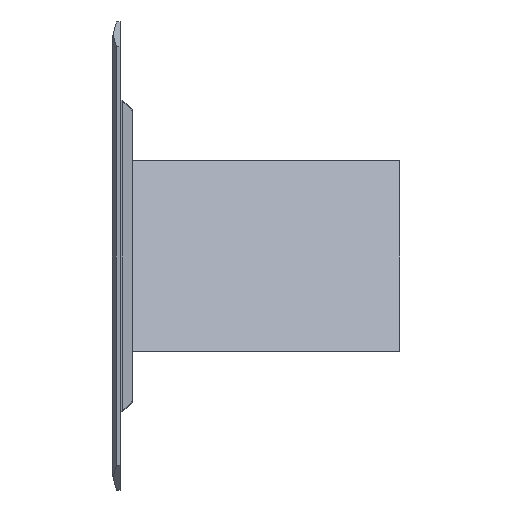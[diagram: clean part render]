
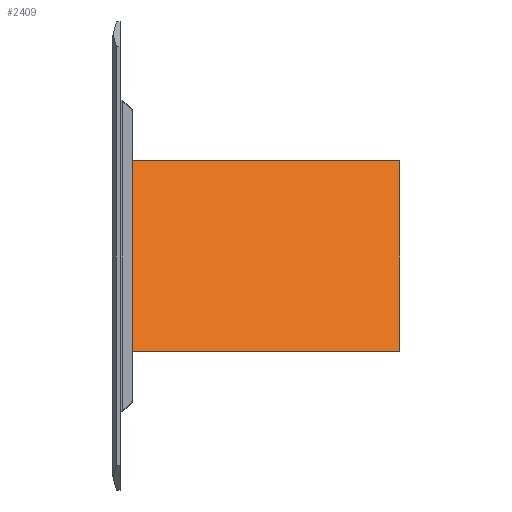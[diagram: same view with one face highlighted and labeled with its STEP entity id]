
A CAD part, left-side view. The second image highlights one B-rep face of the part: STEP entity #2409.
In plain terms, the highlighted planar face has unit normal (-0.866, 0, 0.5) as drawn and (1, 0, 0) by its records, which use the part's own axes.
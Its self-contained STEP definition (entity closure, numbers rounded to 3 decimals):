
#124 = CARTESIAN_POINT ( 'NONE',  ( 52., 342.5, 251.726 ) ) ;
#246 = DIRECTION ( 'NONE',  ( 0., 0., -1. ) ) ;
#323 = EDGE_CURVE ( 'NONE', #1773, #6515, #5387, .T. ) ;
#747 = CARTESIAN_POINT ( 'NONE',  ( 52., -342.5, 251.726 ) ) ;
#847 = CARTESIAN_POINT ( 'NONE',  ( 52., -342.5, -311.77 ) ) ;
#1408 = CARTESIAN_POINT ( 'NONE',  ( 52., 342.5, 251.726 ) ) ;
#1773 = VERTEX_POINT ( 'NONE', #124 ) ;
#1829 = VECTOR ( 'NONE', #246, 1000. ) ;
#2253 = AXIS2_PLACEMENT_3D ( 'NONE', #2652, #9232, #7073 ) ;
#2327 = ORIENTED_EDGE ( 'NONE', *, *, #2798, .F. ) ;
#2409 = ADVANCED_FACE ( 'NONE', ( #7127 ), #4907, .F. ) ;
#2652 = CARTESIAN_POINT ( 'NONE',  ( 52., 342.5, -311.77 ) ) ;
#2798 = EDGE_CURVE ( 'NONE', #6515, #4151, #5346, .T. ) ;
#3027 = CARTESIAN_POINT ( 'NONE',  ( 52., 342.5, -311.77 ) ) ;
#3124 = DIRECTION ( 'NONE',  ( 0., -1., 0. ) ) ;
#4151 = VERTEX_POINT ( 'NONE', #4657 ) ;
#4512 = VECTOR ( 'NONE', #7834, 1000. ) ;
#4525 = VERTEX_POINT ( 'NONE', #747 ) ;
#4575 = EDGE_CURVE ( 'NONE', #1773, #4525, #7924, .T. ) ;
#4657 = CARTESIAN_POINT ( 'NONE',  ( 52., -342.5, -311.77 ) ) ;
#4660 = ORIENTED_EDGE ( 'NONE', *, *, #323, .F. ) ;
#4907 = PLANE ( 'NONE',  #2253 ) ;
#5081 = VECTOR ( 'NONE', #9130, 1000. ) ;
#5304 = LINE ( 'NONE', #847, #1829 ) ;
#5346 = LINE ( 'NONE', #7425, #8526 ) ;
#5387 = LINE ( 'NONE', #5434, #5081 ) ;
#5434 = CARTESIAN_POINT ( 'NONE',  ( 52., 342.5, -311.77 ) ) ;
#6391 = ORIENTED_EDGE ( 'NONE', *, *, #7609, .T. ) ;
#6515 = VERTEX_POINT ( 'NONE', #3027 ) ;
#6530 = ORIENTED_EDGE ( 'NONE', *, *, #4575, .T. ) ;
#7073 = DIRECTION ( 'NONE',  ( 0., 0., 1. ) ) ;
#7127 = FACE_OUTER_BOUND ( 'NONE', #8061, .T. ) ;
#7425 = CARTESIAN_POINT ( 'NONE',  ( 52., 342.5, -311.77 ) ) ;
#7609 = EDGE_CURVE ( 'NONE', #4525, #4151, #5304, .T. ) ;
#7834 = DIRECTION ( 'NONE',  ( 0., -1., 0. ) ) ;
#7924 = LINE ( 'NONE', #1408, #4512 ) ;
#8061 = EDGE_LOOP ( 'NONE', ( #6391, #2327, #4660, #6530 ) ) ;
#8526 = VECTOR ( 'NONE', #3124, 1000. ) ;
#9130 = DIRECTION ( 'NONE',  ( 0., 0., -1. ) ) ;
#9232 = DIRECTION ( 'NONE',  ( -1., 0., 0. ) ) ;
